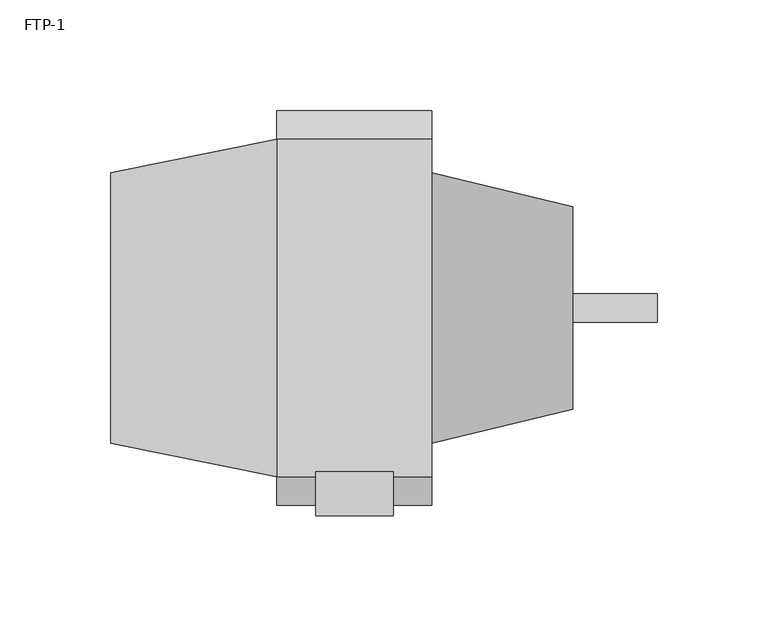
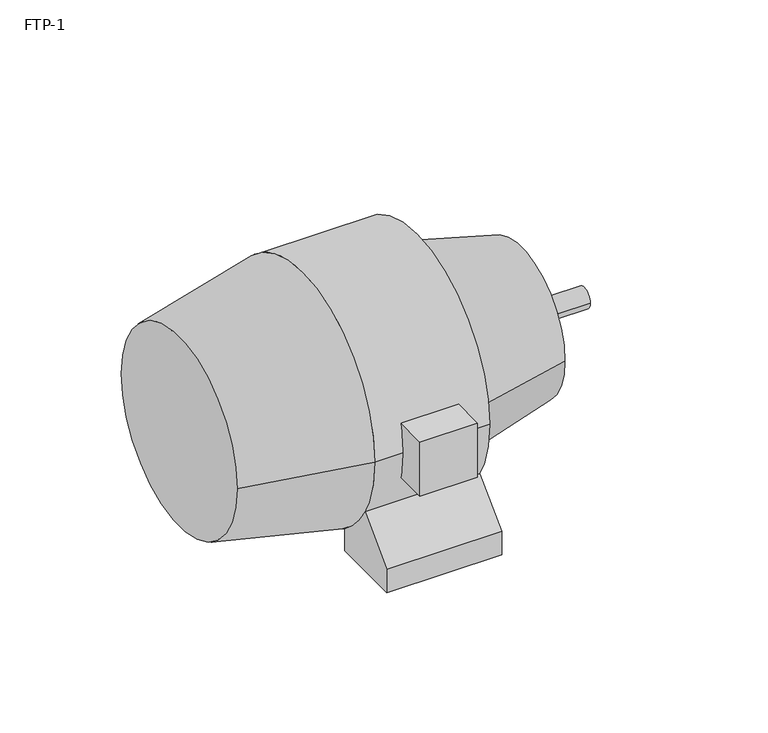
"""IFC4 building model written with IfcOpenShell, lengths in millimetres: proxy geometry, OMAHA - Motor : FTP-1."""

from ifc_helpers import new_model, si_unit, point, frame, frame_2d, origin, place, context, project, spatial, polyline, circle_curve, trimmed, segment, composite_curve, outline, extrude, source, transform, mapped, element, save
from ifc_brep_helpers import plane_surface, revolved_surface, advanced_brep


def ftp_1_fce600b8(model_context):
    return source(origin(), model_context, "Body", "SolidModel", [
        extrude(outline(composite_curve([segment(polyline([(88.9, 0.0), (44.45, 0.0), (44.45, 14.3078559)]), True, "CONTINUOUS"), segment(trimmed(circle_curve(frame_2d((0.0, 76.2)), 76.2), [point((44.45, 14.3078559))], [point((66.0090152, 38.1309848))], True, "CARTESIAN"), True, "CONTINUOUS"), segment(polyline([(66.0090152, 38.1309848), (88.9, 15.24), (88.9, 0.0)]), True, "CONTINUOUS")], self_intersect=False)), frame((-34.925, 0.0, 0.0), z_axis=(1.0, 0.0, 0.0), x_axis=(0.0, 1.0, 0.0)), (0.0, 0.0, 1.0), 69.85),
        extrude(outline(composite_curve([segment(polyline([(-44.45, 0.0), (-88.9, 0.0), (-88.9, 15.24), (-66.0090152, 38.1309848)]), True, "CONTINUOUS"), segment(trimmed(circle_curve(frame_2d((0.0, 76.2)), 76.2), [point((-66.0090152, 38.1309848))], [point((-44.45, 14.3078559))], True, "CARTESIAN"), True, "CONTINUOUS"), segment(polyline([(-44.45, 14.3078559), (-44.45, 0.0)]), True, "CONTINUOUS")], self_intersect=False)), frame((-34.925, 0.0, 0.0), z_axis=(1.0, 0.0, 0.0), x_axis=(0.0, 1.0, 0.0)), (0.0, 0.0, 1.0), 69.85),
        extrude(outline(polyline([(17.4625, -93.6625), (-17.4625, -93.6625), (-17.4625, -71.12), (17.4625, -71.12), (17.4625, -93.6625)])), frame((0.0, 0.0, 58.7375), z_axis=(0.0, 0.0, 1.0), x_axis=(1.0, 0.0, 0.0)), (0.0, 0.0, 1.0), 34.925),
        extrude(outline(composite_curve([segment(trimmed(circle_curve(frame_2d((0.0, 76.2)), 6.35), [point((-6.35, 76.2))], [point((6.35, 76.2))], False, "CARTESIAN"), True, "CONTINUOUS"), segment(trimmed(circle_curve(frame_2d((0.0, 76.2)), 6.35), [point((6.35, 76.2))], [point((-6.35, 76.2))], False, "CARTESIAN"), True, "CONTINUOUS")], self_intersect=False)), frame((98.425, 0.0, 0.0), z_axis=(1.0, 0.0, 0.0), x_axis=(0.0, 1.0, 0.0)), (0.0, 0.0, 1.0), 38.1),
        advanced_brep(
        [(-34.925, -76.2, 76.2), (-34.925, 76.2, 76.2), (-109.8351562, -60.96, 76.2), (-109.8351562, 60.96, 76.2)],
        [
            (0, 1, circle_curve(frame((-34.925, 0.0, 76.2), z_axis=(1.0, 0.0, 0.0), x_axis=(0.0, -1.0, 0.0)), 76.2)),
            (1, 0, circle_curve(frame((-34.925, 0.0, 76.2), z_axis=(1.0, 0.0, 0.0), x_axis=(0.0, 1.0, 0.0)), 76.2)),
            (2, 3, circle_curve(frame((-109.8351562, 0.0, 76.2), z_axis=(-1.0, 0.0, 0.0), x_axis=(0.0, 1.0, 0.0)), 60.96)),
            (3, 2, circle_curve(frame((-109.8351562, 0.0, 76.2), z_axis=(-1.0, 0.0, 0.0), x_axis=(0.0, -1.0, 0.0)), 60.96)),
            (3, 1),
            (0, 2),
        ],
        [
            plane_surface(frame((-34.925, 0.0, 76.2), z_axis=(1.0, 0.0, 0.0), x_axis=(0.0, 0.0, -1.0))),
            plane_surface(frame((-109.8351562, 0.0, 76.2), z_axis=(-1.0, 0.0, 0.0), x_axis=(0.0, 0.0, -1.0))),
            revolved_surface(polyline([(-109.83515619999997, 60.96000000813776, 76.2), (-34.92500000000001, 76.2, 76.2)]), (-409.4757812, 0.0, 76.2), (1.0, 0.0, 0.0)),
            revolved_surface(polyline([(-109.83515619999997, -60.96000000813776, 76.2), (-34.92500000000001, -76.2, 76.2)]), (-409.4757812, 0.0, 76.2), (1.0, 0.0, 0.0)),
        ],
        [
            (0, [[1, 2]]),
            (1, [[3, 4]]),
            (2, [[-4, 5, -1, 6]]),
            (3, [[-3, -6, -2, -5]]),
        ],
    ),
        advanced_brep(
        [(98.425, -45.72, 76.2), (98.425, 45.72, 76.2), (34.925, -60.96, 76.2), (34.925, 60.96, 76.2)],
        [
            (0, 1, circle_curve(frame((98.425, 0.0, 76.2), z_axis=(1.0, 0.0, 0.0), x_axis=(0.0, -1.0, 0.0)), 45.72)),
            (1, 0, circle_curve(frame((98.425, 0.0, 76.2), z_axis=(1.0, 0.0, 0.0), x_axis=(0.0, 1.0, 0.0)), 45.72)),
            (2, 3, circle_curve(frame((34.925, 0.0, 76.2), z_axis=(-1.0, 0.0, 0.0), x_axis=(0.0, 1.0, 0.0)), 60.96)),
            (3, 2, circle_curve(frame((34.925, 0.0, 76.2), z_axis=(-1.0, 0.0, 0.0), x_axis=(0.0, -1.0, 0.0)), 60.96)),
            (3, 1),
            (0, 2),
        ],
        [
            plane_surface(frame((98.425, 0.0, 76.2), z_axis=(1.0, 0.0, 0.0), x_axis=(0.0, 0.0, -1.0))),
            plane_surface(frame((34.925, 0.0, 76.2), z_axis=(-1.0, 0.0, 0.0), x_axis=(0.0, 0.0, -1.0))),
            revolved_surface(polyline([(98.42500000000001, -45.72, 76.2), (34.92500000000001, -60.96, 76.2)]), (288.925, 0.0, 76.2), (-1.0, 0.0, 0.0)),
            revolved_surface(polyline([(98.42500000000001, 45.72, 76.2), (34.92500000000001, 60.96, 76.2)]), (288.925, 0.0, 76.2), (-1.0, 0.0, 0.0)),
        ],
        [
            (0, [[1, 2]]),
            (1, [[3, 4]]),
            (2, [[-4, 5, -1, 6]]),
            (3, [[-3, -6, -2, -5]]),
        ],
    ),
        extrude(outline(composite_curve([segment(trimmed(circle_curve(frame_2d((0.0, 76.2)), 76.2), [point((-76.2, 76.2))], [point((76.2, 76.2))], False, "CARTESIAN"), True, "CONTINUOUS"), segment(trimmed(circle_curve(frame_2d((0.0, 76.2)), 76.2), [point((76.2, 76.2))], [point((-76.2, 76.2))], False, "CARTESIAN"), True, "CONTINUOUS")], self_intersect=False)), frame((-34.925, 0.0, 0.0), z_axis=(1.0, 0.0, 0.0), x_axis=(0.0, 1.0, 0.0)), (0.0, 0.0, 1.0), 69.85),
    ])


if __name__ == "__main__":
    model = new_model("IFC4")
    model_context = context("Model", 3, world=origin())
    ifc_project = project(units=[si_unit("LENGTHUNIT", "METRE", prefix="MILLI")], contexts=[model_context])
    site = spatial("IfcSite", under=ifc_project)
    building = spatial("IfcBuilding", under=site)
    placement = place(None, origin())
    ftp_1_shape = ftp_1_fce600b8(model_context)
    element("IfcBuildingElementProxy", 1, Name="OMAHA - Motor : FTP-1", ObjectType="OMAHA - Motor : FTP-1", at=placement, inside=building, context=model_context, shape_type="MappedRepresentation", body=[
        mapped(ftp_1_shape, transform((0.0, 0.0, 0.0), x_axis=(1.0, 0.0, 0.0), y_axis=(0.0, 1.0, 0.0), z_axis=(0.0, 0.0, 1.0))),
    ])
    save(model, "model.ifc")
